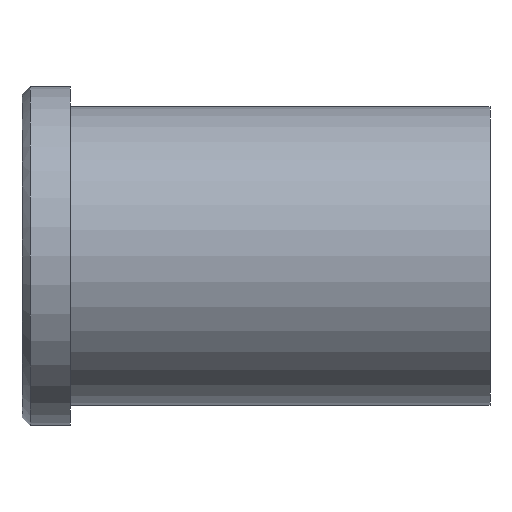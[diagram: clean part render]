
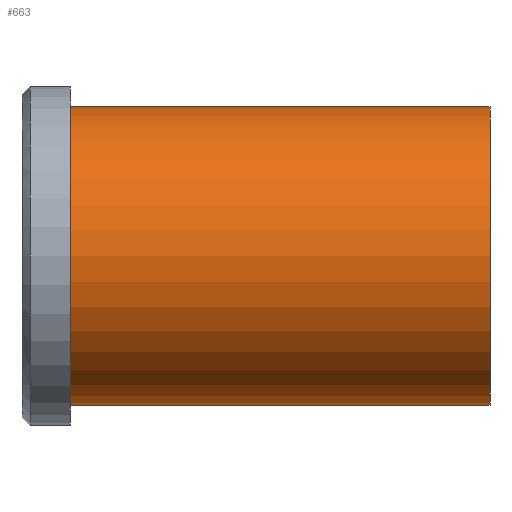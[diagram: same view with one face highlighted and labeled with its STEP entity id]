
A CAD part, front view. The second image highlights one B-rep face of the part: STEP entity #663.
In plain terms, the highlighted cylindrical face has radius 37 mm (diameter 74 mm), a partial arc.
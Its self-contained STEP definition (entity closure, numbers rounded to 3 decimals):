
#501=CARTESIAN_POINT('Vertex',(0.,0.,-37.)) ;
#506=CARTESIAN_POINT('Axis2P3D Location',(0.,0.,0.)) ;
#510=CARTESIAN_POINT('Vertex',(0.,-37.,0.)) ;
#513=CARTESIAN_POINT('Axis2P3D Location',(0.,0.,0.)) ;
#517=CARTESIAN_POINT('Vertex',(0.,0.,37.)) ;
#603=CARTESIAN_POINT('Line Origine',(104.,0.,37.)) ;
#607=CARTESIAN_POINT('Vertex',(104.,0.,37.)) ;
#621=CARTESIAN_POINT('Vertex',(104.,0.,-37.)) ;
#624=CARTESIAN_POINT('Line Origine',(104.,0.,-37.)) ;
#638=CARTESIAN_POINT('Axis2P3D Location',(104.,0.,0.)) ;
#643=CARTESIAN_POINT('Axis2P3D Location',(104.,0.,0.)) ;
#647=CARTESIAN_POINT('Vertex',(104.,-37.,0.)) ;
#650=CARTESIAN_POINT('Axis2P3D Location',(104.,0.,0.)) ;
#507=DIRECTION('Axis2P3D Direction',(1.,0.,-0.)) ;
#514=DIRECTION('Axis2P3D Direction',(1.,0.,-0.)) ;
#604=DIRECTION('Vector Direction',(-1.,0.,0.)) ;
#625=DIRECTION('Vector Direction',(-1.,0.,0.)) ;
#639=DIRECTION('Axis2P3D Direction',(-1.,-0.,-0.)) ;
#640=DIRECTION('Axis2P3D XDirection',(0.,0.,-1.)) ;
#644=DIRECTION('Axis2P3D Direction',(-1.,-0.,-0.)) ;
#651=DIRECTION('Axis2P3D Direction',(-1.,-0.,-0.)) ;
#508=AXIS2_PLACEMENT_3D('Circle Axis2P3D',#506,#507,$) ;
#515=AXIS2_PLACEMENT_3D('Circle Axis2P3D',#513,#514,$) ;
#641=AXIS2_PLACEMENT_3D('Cylinder Axis2P3D',#638,#639,#640) ;
#645=AXIS2_PLACEMENT_3D('Circle Axis2P3D',#643,#644,$) ;
#652=AXIS2_PLACEMENT_3D('Circle Axis2P3D',#650,#651,$) ;
#656=ORIENTED_EDGE('',*,*,#628,.T.) ;
#657=ORIENTED_EDGE('',*,*,#649,.F.) ;
#658=ORIENTED_EDGE('',*,*,#654,.F.) ;
#659=ORIENTED_EDGE('',*,*,#609,.T.) ;
#660=ORIENTED_EDGE('',*,*,#519,.T.) ;
#661=ORIENTED_EDGE('',*,*,#512,.T.) ;
#605=VECTOR('Line Direction',#604,1.) ;
#626=VECTOR('Line Direction',#625,1.) ;
#663=ADVANCED_FACE('353-60x116',(#662),#642,.T.) ;
#509=CIRCLE('generated circle',#508,37.) ;
#516=CIRCLE('generated circle',#515,37.) ;
#646=CIRCLE('generated circle',#645,37.) ;
#653=CIRCLE('generated circle',#652,37.) ;
#642=CYLINDRICAL_SURFACE('generated cylinder',#641,37.) ;
#512=EDGE_CURVE('',#511,#502,#509,.T.) ;
#519=EDGE_CURVE('',#518,#511,#516,.T.) ;
#609=EDGE_CURVE('',#608,#518,#606,.T.) ;
#628=EDGE_CURVE('',#502,#622,#627,.F.) ;
#649=EDGE_CURVE('',#648,#622,#646,.F.) ;
#654=EDGE_CURVE('',#608,#648,#653,.F.) ;
#655=EDGE_LOOP('',(#656,#657,#658,#659,#660,#661)) ;
#662=FACE_OUTER_BOUND('',#655,.T.) ;
#606=LINE('Line',#603,#605) ;
#627=LINE('Line',#624,#626) ;
#502=VERTEX_POINT('',#501) ;
#511=VERTEX_POINT('',#510) ;
#518=VERTEX_POINT('',#517) ;
#608=VERTEX_POINT('',#607) ;
#622=VERTEX_POINT('',#621) ;
#648=VERTEX_POINT('',#647) ;
